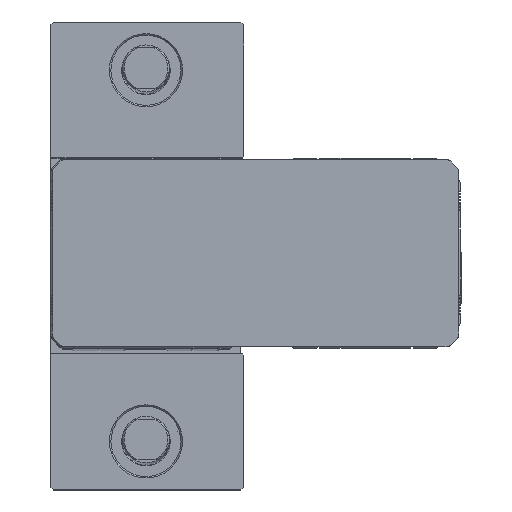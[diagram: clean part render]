
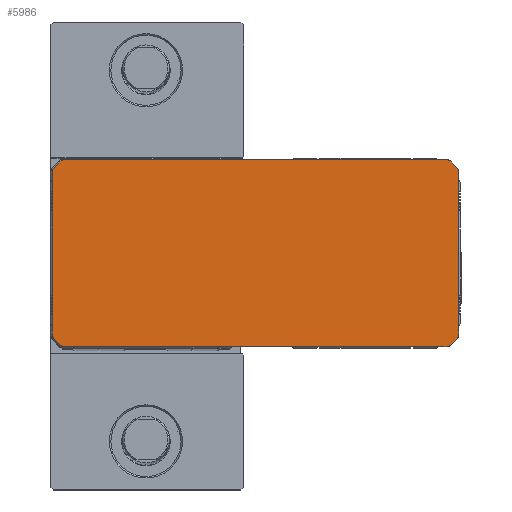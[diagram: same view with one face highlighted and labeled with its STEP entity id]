
A CAD part, top view. The second image highlights one B-rep face of the part: STEP entity #5986.
In plain terms, the highlighted planar face has unit normal (0, 0, 1).
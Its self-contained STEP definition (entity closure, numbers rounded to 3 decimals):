
#222 = CARTESIAN_POINT ( 'NONE',  ( 107., 28., 544. ) ) ;
#353 = VERTEX_POINT ( 'NONE', #33841 ) ;
#379 = EDGE_CURVE ( 'NONE', #42413, #30737, #7542, .T. ) ;
#412 = VECTOR ( 'NONE', #13221, 1000. ) ;
#458 = DIRECTION ( 'NONE',  ( -1., 0., 0. ) ) ;
#962 = CARTESIAN_POINT ( 'NONE',  ( 103., -30.5, 544. ) ) ;
#1600 = CIRCLE ( 'NONE', #33360, 1.5 ) ;
#1642 = CARTESIAN_POINT ( 'NONE',  ( 107., -28., 544. ) ) ;
#2358 = AXIS2_PLACEMENT_3D ( 'NONE', #962, #25396, #4482 ) ;
#2374 = VERTEX_POINT ( 'NONE', #16475 ) ;
#2727 = EDGE_CURVE ( 'NONE', #40042, #42413, #15293, .T. ) ;
#2871 = ORIENTED_EDGE ( 'NONE', *, *, #2727, .T. ) ;
#2872 = AXIS2_PLACEMENT_3D ( 'NONE', #4990, #29435, #8507 ) ;
#3285 = CARTESIAN_POINT ( 'NONE',  ( -31.561, 29.061, 544. ) ) ;
#3711 = CARTESIAN_POINT ( 'NONE',  ( -30.5, -28., 544. ) ) ;
#3748 = DIRECTION ( 'NONE',  ( 0., 0., 1. ) ) ;
#3946 = CARTESIAN_POINT ( 'NONE',  ( -28., 32., 544. ) ) ;
#4482 = DIRECTION ( 'NONE',  ( 1., 0., 0. ) ) ;
#4538 = CARTESIAN_POINT ( 'NONE',  ( -28., -32., 544. ) ) ;
#4872 = CARTESIAN_POINT ( 'NONE',  ( -28., 30.5, 544. ) ) ;
#4952 = ORIENTED_EDGE ( 'NONE', *, *, #26177, .T. ) ;
#4990 = CARTESIAN_POINT ( 'NONE',  ( 105.5, 28., 544. ) ) ;
#5401 = ORIENTED_EDGE ( 'NONE', *, *, #35143, .T. ) ;
#5986 = ADVANCED_FACE ( 'NONE', ( #7938 ), #21170, .T. ) ;
#6184 = AXIS2_PLACEMENT_3D ( 'NONE', #15759, #40176, #19270 ) ;
#6313 = CARTESIAN_POINT ( 'NONE',  ( -31.561, -29.061, 544. ) ) ;
#6583 = VECTOR ( 'NONE', #43068, 1000. ) ;
#6830 = VECTOR ( 'NONE', #12179, 1000. ) ;
#7231 = DIRECTION ( 'NONE',  ( 1., 0., 0. ) ) ;
#7542 = LINE ( 'NONE', #34121, #412 ) ;
#7834 = DIRECTION ( 'NONE',  ( -0.707, -0.707, 0. ) ) ;
#7938 = FACE_OUTER_BOUND ( 'NONE', #38473, .T. ) ;
#8390 = DIRECTION ( 'NONE',  ( 1., 0., 0. ) ) ;
#8507 = DIRECTION ( 'NONE',  ( 1., 0., 0. ) ) ;
#9021 = ORIENTED_EDGE ( 'NONE', *, *, #28508, .T. ) ;
#9440 = EDGE_CURVE ( 'NONE', #353, #42080, #18274, .T. ) ;
#10163 = ORIENTED_EDGE ( 'NONE', *, *, #37271, .T. ) ;
#11268 = DIRECTION ( 'NONE',  ( 0., -1., 0. ) ) ;
#11510 = CARTESIAN_POINT ( 'NONE',  ( -28., -32., 544. ) ) ;
#11839 = ORIENTED_EDGE ( 'NONE', *, *, #44928, .T. ) ;
#12123 = EDGE_CURVE ( 'NONE', #21199, #40042, #16979, .T. ) ;
#12179 = DIRECTION ( 'NONE',  ( 0.707, -0.707, 0. ) ) ;
#12481 = VERTEX_POINT ( 'NONE', #3285 ) ;
#12539 = ORIENTED_EDGE ( 'NONE', *, *, #23477, .T. ) ;
#12759 = VERTEX_POINT ( 'NONE', #32751 ) ;
#13034 = VERTEX_POINT ( 'NONE', #6313 ) ;
#13221 = DIRECTION ( 'NONE',  ( 0.707, 0.707, 0. ) ) ;
#13654 = LINE ( 'NONE', #24912, #21844 ) ;
#13891 = CARTESIAN_POINT ( 'NONE',  ( 106.561, 29.061, 544. ) ) ;
#14101 = EDGE_CURVE ( 'NONE', #12481, #353, #36708, .T. ) ;
#15169 = CIRCLE ( 'NONE', #43028, 1.5 ) ;
#15293 = CIRCLE ( 'NONE', #2358, 1.5 ) ;
#15472 = VERTEX_POINT ( 'NONE', #34583 ) ;
#15759 = CARTESIAN_POINT ( 'NONE',  ( 103., 30.5, 544. ) ) ;
#16475 = CARTESIAN_POINT ( 'NONE',  ( -29.061, -31.561, 544. ) ) ;
#16979 = LINE ( 'NONE', #4538, #6583 ) ;
#17439 = DIRECTION ( 'NONE',  ( -0.707, 0.707, 0. ) ) ;
#17681 = EDGE_CURVE ( 'NONE', #43127, #39172, #24873, .T. ) ;
#17788 = LINE ( 'NONE', #28757, #18899 ) ;
#18274 = LINE ( 'NONE', #42744, #35715 ) ;
#18444 = CARTESIAN_POINT ( 'NONE',  ( 106.561, -29.061, 544. ) ) ;
#18531 = LINE ( 'NONE', #13891, #45311 ) ;
#18615 = VERTEX_POINT ( 'NONE', #35577 ) ;
#18657 = CARTESIAN_POINT ( 'NONE',  ( 104.061, -31.561, 544. ) ) ;
#18899 = VECTOR ( 'NONE', #7834, 1000. ) ;
#19047 = DIRECTION ( 'NONE',  ( 0., 0., 1. ) ) ;
#19270 = DIRECTION ( 'NONE',  ( 1., 0., 0. ) ) ;
#19323 = CARTESIAN_POINT ( 'NONE',  ( -30.5, 28., 544. ) ) ;
#20801 = DIRECTION ( 'NONE',  ( 0., 0., 1. ) ) ;
#21147 = EDGE_CURVE ( 'NONE', #18615, #12481, #17788, .T. ) ;
#21170 = PLANE ( 'NONE',  #25707 ) ;
#21199 = VERTEX_POINT ( 'NONE', #11510 ) ;
#21289 = AXIS2_PLACEMENT_3D ( 'NONE', #19323, #43784, #22832 ) ;
#21571 = CARTESIAN_POINT ( 'NONE',  ( 103., -32., 544. ) ) ;
#21844 = VECTOR ( 'NONE', #458, 1000. ) ;
#22360 = EDGE_CURVE ( 'NONE', #37584, #43127, #29136, .T. ) ;
#22832 = DIRECTION ( 'NONE',  ( 1., 0., 0. ) ) ;
#23477 = EDGE_CURVE ( 'NONE', #33407, #18615, #28482, .T. ) ;
#23741 = ORIENTED_EDGE ( 'NONE', *, *, #14101, .T. ) ;
#24680 = CARTESIAN_POINT ( 'NONE',  ( -30.5, -28., 544. ) ) ;
#24873 = CIRCLE ( 'NONE', #2872, 1.5 ) ;
#24912 = CARTESIAN_POINT ( 'NONE',  ( 103., 32., 544. ) ) ;
#25014 = ORIENTED_EDGE ( 'NONE', *, *, #12123, .T. ) ;
#25321 = CARTESIAN_POINT ( 'NONE',  ( 106.561, 29.061, 544. ) ) ;
#25396 = DIRECTION ( 'NONE',  ( 0., 0., 1. ) ) ;
#25707 = AXIS2_PLACEMENT_3D ( 'NONE', #3711, #28169, #7231 ) ;
#25894 = DIRECTION ( 'NONE',  ( 0., 1., 0. ) ) ;
#26177 = EDGE_CURVE ( 'NONE', #2374, #21199, #1600, .T. ) ;
#26723 = CIRCLE ( 'NONE', #32783, 1.5 ) ;
#27049 = CARTESIAN_POINT ( 'NONE',  ( -32., -28., 544. ) ) ;
#27910 = EDGE_CURVE ( 'NONE', #15472, #12759, #34222, .T. ) ;
#28030 = VECTOR ( 'NONE', #25894, 1000. ) ;
#28169 = DIRECTION ( 'NONE',  ( 0., 0., 1. ) ) ;
#28200 = DIRECTION ( 'NONE',  ( 1., 0., 0. ) ) ;
#28482 = CIRCLE ( 'NONE', #35006, 1.5 ) ;
#28508 = EDGE_CURVE ( 'NONE', #13034, #2374, #34684, .T. ) ;
#28757 = CARTESIAN_POINT ( 'NONE',  ( -29.061, 31.561, 544. ) ) ;
#28994 = ORIENTED_EDGE ( 'NONE', *, *, #379, .T. ) ;
#29136 = LINE ( 'NONE', #39806, #28030 ) ;
#29327 = DIRECTION ( 'NONE',  ( 0., 0., 1. ) ) ;
#29435 = DIRECTION ( 'NONE',  ( 0., 0., 1. ) ) ;
#29594 = CARTESIAN_POINT ( 'NONE',  ( -31.561, -29.061, 544. ) ) ;
#30737 = VERTEX_POINT ( 'NONE', #18444 ) ;
#32161 = ORIENTED_EDGE ( 'NONE', *, *, #22360, .T. ) ;
#32751 = CARTESIAN_POINT ( 'NONE',  ( 103., 32., 544. ) ) ;
#32783 = AXIS2_PLACEMENT_3D ( 'NONE', #39940, #19047, #43457 ) ;
#33360 = AXIS2_PLACEMENT_3D ( 'NONE', #41681, #20801, #45249 ) ;
#33407 = VERTEX_POINT ( 'NONE', #3946 ) ;
#33841 = CARTESIAN_POINT ( 'NONE',  ( -32., 28., 544. ) ) ;
#34121 = CARTESIAN_POINT ( 'NONE',  ( 104.061, -31.561, 544. ) ) ;
#34222 = CIRCLE ( 'NONE', #6184, 1.5 ) ;
#34583 = CARTESIAN_POINT ( 'NONE',  ( 104.061, 31.561, 544. ) ) ;
#34684 = LINE ( 'NONE', #29594, #6830 ) ;
#35006 = AXIS2_PLACEMENT_3D ( 'NONE', #4872, #29327, #8390 ) ;
#35143 = EDGE_CURVE ( 'NONE', #12759, #33407, #13654, .T. ) ;
#35364 = ORIENTED_EDGE ( 'NONE', *, *, #9440, .T. ) ;
#35577 = CARTESIAN_POINT ( 'NONE',  ( -29.061, 31.561, 544. ) ) ;
#35715 = VECTOR ( 'NONE', #11268, 1000. ) ;
#36391 = EDGE_CURVE ( 'NONE', #30737, #37584, #26723, .T. ) ;
#36708 = CIRCLE ( 'NONE', #21289, 1.5 ) ;
#37271 = EDGE_CURVE ( 'NONE', #39172, #15472, #18531, .T. ) ;
#37584 = VERTEX_POINT ( 'NONE', #1642 ) ;
#38443 = ORIENTED_EDGE ( 'NONE', *, *, #36391, .T. ) ;
#38473 = EDGE_LOOP ( 'NONE', ( #11839, #9021, #4952, #25014, #2871, #28994, #38443, #32161, #39691, #10163, #44046, #5401, #12539, #44065, #23741, #35364 ) ) ;
#39172 = VERTEX_POINT ( 'NONE', #25321 ) ;
#39691 = ORIENTED_EDGE ( 'NONE', *, *, #17681, .T. ) ;
#39806 = CARTESIAN_POINT ( 'NONE',  ( 107., -28., 544. ) ) ;
#39940 = CARTESIAN_POINT ( 'NONE',  ( 105.5, -28., 544. ) ) ;
#40042 = VERTEX_POINT ( 'NONE', #21571 ) ;
#40176 = DIRECTION ( 'NONE',  ( 0., 0., 1. ) ) ;
#41681 = CARTESIAN_POINT ( 'NONE',  ( -28., -30.5, 544. ) ) ;
#42080 = VERTEX_POINT ( 'NONE', #27049 ) ;
#42413 = VERTEX_POINT ( 'NONE', #18657 ) ;
#42744 = CARTESIAN_POINT ( 'NONE',  ( -32., 28., 544. ) ) ;
#43028 = AXIS2_PLACEMENT_3D ( 'NONE', #24680, #3748, #28200 ) ;
#43068 = DIRECTION ( 'NONE',  ( 1., 0., 0. ) ) ;
#43127 = VERTEX_POINT ( 'NONE', #222 ) ;
#43457 = DIRECTION ( 'NONE',  ( 1., 0., 0. ) ) ;
#43784 = DIRECTION ( 'NONE',  ( 0., 0., 1. ) ) ;
#44046 = ORIENTED_EDGE ( 'NONE', *, *, #27910, .T. ) ;
#44065 = ORIENTED_EDGE ( 'NONE', *, *, #21147, .T. ) ;
#44928 = EDGE_CURVE ( 'NONE', #42080, #13034, #15169, .T. ) ;
#45249 = DIRECTION ( 'NONE',  ( 1., 0., 0. ) ) ;
#45311 = VECTOR ( 'NONE', #17439, 1000. ) ;
